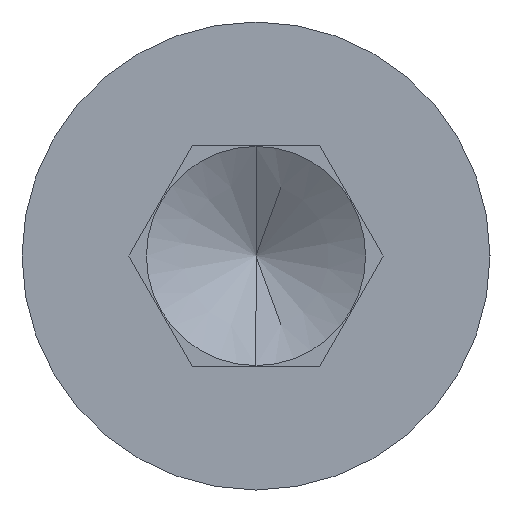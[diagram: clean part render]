
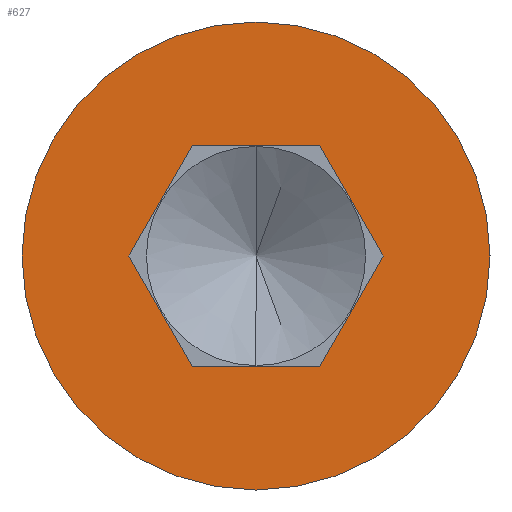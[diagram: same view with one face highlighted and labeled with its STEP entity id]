
A CAD part, left-side view. The second image highlights one B-rep face of the part: STEP entity #627.
In plain terms, the highlighted planar face has unit normal (-1, 0, 0).
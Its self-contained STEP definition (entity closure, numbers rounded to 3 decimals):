
#5 = FACE_BOUND ( 'NONE', #643, .T. ) ;
#18 = LINE ( 'NONE', #662, #658 ) ;
#41 = ORIENTED_EDGE ( 'NONE', *, *, #442, .T. ) ;
#59 = VERTEX_POINT ( 'NONE', #645 ) ;
#60 = VECTOR ( 'NONE', #753, 1000. ) ;
#76 = DIRECTION ( 'NONE',  ( 1., 0., 0. ) ) ;
#104 = CARTESIAN_POINT ( 'NONE',  ( -5., 0., 0. ) ) ;
#106 = CARTESIAN_POINT ( 'NONE',  ( -5., 1.155, -2. ) ) ;
#114 = DIRECTION ( 'NONE',  ( -1., 0., 0. ) ) ;
#125 = EDGE_CURVE ( 'NONE', #564, #731, #406, .T. ) ;
#165 = DIRECTION ( 'NONE',  ( 0., 0., 1. ) ) ;
#170 = DIRECTION ( 'NONE',  ( 0., 1., 0. ) ) ;
#226 = EDGE_LOOP ( 'NONE', ( #397, #719 ) ) ;
#237 = ORIENTED_EDGE ( 'NONE', *, *, #287, .T. ) ;
#249 = VECTOR ( 'NONE', #483, 1000. ) ;
#262 = ORIENTED_EDGE ( 'NONE', *, *, #668, .T. ) ;
#268 = CARTESIAN_POINT ( 'NONE',  ( -5., -2.309, 0. ) ) ;
#284 = ORIENTED_EDGE ( 'NONE', *, *, #688, .T. ) ;
#287 = EDGE_CURVE ( 'NONE', #731, #611, #487, .T. ) ;
#323 = LINE ( 'NONE', #776, #794 ) ;
#336 = CARTESIAN_POINT ( 'NONE',  ( -5., 1.155, -2. ) ) ;
#354 = CARTESIAN_POINT ( 'NONE',  ( -5., 2.125, 2. ) ) ;
#367 = VERTEX_POINT ( 'NONE', #566 ) ;
#368 = AXIS2_PLACEMENT_3D ( 'NONE', #441, #76, #508 ) ;
#395 = CARTESIAN_POINT ( 'NONE',  ( -5., -1.155, -2. ) ) ;
#396 = AXIS2_PLACEMENT_3D ( 'NONE', #482, #114, #544 ) ;
#397 = ORIENTED_EDGE ( 'NONE', *, *, #774, .F. ) ;
#403 = EDGE_CURVE ( 'NONE', #665, #367, #735, .T. ) ;
#406 = LINE ( 'NONE', #354, #249 ) ;
#441 = CARTESIAN_POINT ( 'NONE',  ( -5., 0., 0. ) ) ;
#442 = EDGE_CURVE ( 'NONE', #611, #523, #714, .T. ) ;
#450 = CIRCLE ( 'NONE', #554, 4.25 ) ;
#455 = ORIENTED_EDGE ( 'NONE', *, *, #615, .T. ) ;
#463 = LINE ( 'NONE', #336, #610 ) ;
#474 = CARTESIAN_POINT ( 'NONE',  ( -5., 1.155, 2. ) ) ;
#482 = CARTESIAN_POINT ( 'NONE',  ( -5., 2.125, 0. ) ) ;
#483 = DIRECTION ( 'NONE',  ( 0., -1., 0. ) ) ;
#487 = LINE ( 'NONE', #586, #801 ) ;
#508 = DIRECTION ( 'NONE',  ( 0., 0., 1. ) ) ;
#523 = VERTEX_POINT ( 'NONE', #395 ) ;
#536 = DIRECTION ( 'NONE',  ( 1., 0., 0. ) ) ;
#544 = DIRECTION ( 'NONE',  ( 0., 0., 1. ) ) ;
#550 = ORIENTED_EDGE ( 'NONE', *, *, #125, .T. ) ;
#554 = AXIS2_PLACEMENT_3D ( 'NONE', #104, #536, #165 ) ;
#564 = VERTEX_POINT ( 'NONE', #474 ) ;
#566 = CARTESIAN_POINT ( 'NONE',  ( -5., 0., 4.25 ) ) ;
#569 = VERTEX_POINT ( 'NONE', #106 ) ;
#586 = CARTESIAN_POINT ( 'NONE',  ( -5., -1.155, 2. ) ) ;
#600 = CARTESIAN_POINT ( 'NONE',  ( -5., -2.309, 0. ) ) ;
#603 = PLANE ( 'NONE',  #396 ) ;
#610 = VECTOR ( 'NONE', #763, 1000. ) ;
#611 = VERTEX_POINT ( 'NONE', #600 ) ;
#615 = EDGE_CURVE ( 'NONE', #523, #569, #323, .T. ) ;
#627 = ADVANCED_FACE ( 'NONE', ( #5, #648 ), #603, .T. ) ;
#643 = EDGE_LOOP ( 'NONE', ( #455, #284, #262, #550, #237, #41 ) ) ;
#645 = CARTESIAN_POINT ( 'NONE',  ( -5., 2.309, 0. ) ) ;
#648 = FACE_OUTER_BOUND ( 'NONE', #226, .T. ) ;
#658 = VECTOR ( 'NONE', #786, 1000. ) ;
#662 = CARTESIAN_POINT ( 'NONE',  ( -5., 2.309, 0. ) ) ;
#665 = VERTEX_POINT ( 'NONE', #728 ) ;
#668 = EDGE_CURVE ( 'NONE', #59, #564, #18, .T. ) ;
#688 = EDGE_CURVE ( 'NONE', #569, #59, #463, .T. ) ;
#707 = DIRECTION ( 'NONE',  ( 0., -0.5, -0.866 ) ) ;
#714 = LINE ( 'NONE', #268, #60 ) ;
#719 = ORIENTED_EDGE ( 'NONE', *, *, #403, .F. ) ;
#728 = CARTESIAN_POINT ( 'NONE',  ( -5., 0., -4.25 ) ) ;
#731 = VERTEX_POINT ( 'NONE', #766 ) ;
#735 = CIRCLE ( 'NONE', #368, 4.25 ) ;
#753 = DIRECTION ( 'NONE',  ( 0., 0.5, -0.866 ) ) ;
#763 = DIRECTION ( 'NONE',  ( 0., 0.5, 0.866 ) ) ;
#766 = CARTESIAN_POINT ( 'NONE',  ( -5., -1.155, 2. ) ) ;
#774 = EDGE_CURVE ( 'NONE', #367, #665, #450, .T. ) ;
#776 = CARTESIAN_POINT ( 'NONE',  ( -5., 2.125, -2. ) ) ;
#786 = DIRECTION ( 'NONE',  ( 0., -0.5, 0.866 ) ) ;
#794 = VECTOR ( 'NONE', #170, 1000. ) ;
#801 = VECTOR ( 'NONE', #707, 1000. ) ;
